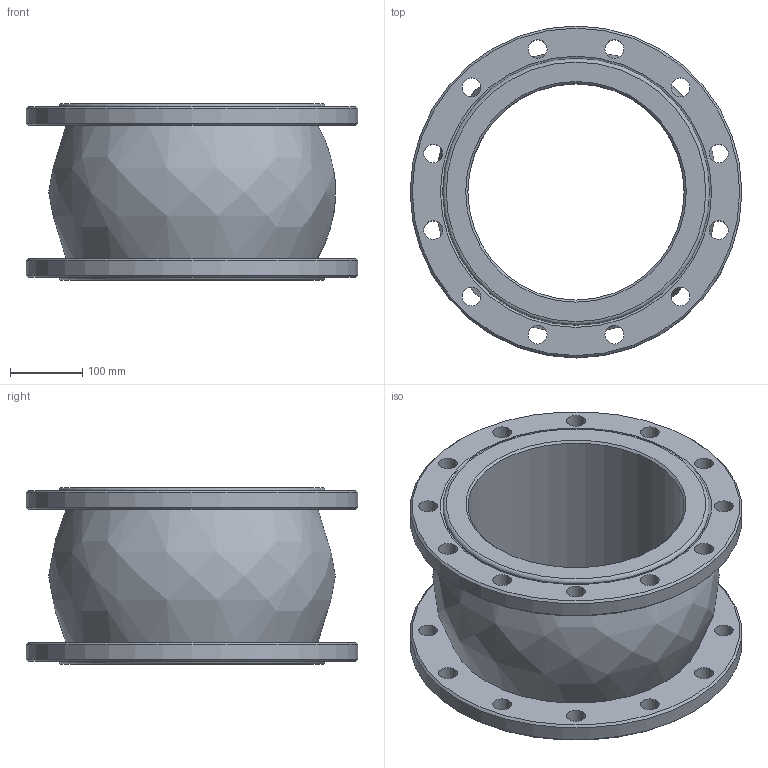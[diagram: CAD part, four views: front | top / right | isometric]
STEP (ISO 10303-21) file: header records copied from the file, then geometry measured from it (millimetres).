
FILE_DESCRIPTION(/* description */ ('D140-02402','CAx-IF Rec.Pracs.---Representation and Presentation of Product Manufacturing Information (PMI)---4.0---2014-10-13'),/* implementation_level */ '2;1');
FILE_NAME(/* name */ '',/* time_stamp */ '2026-03-10T22:44:08+03:00',/* author */ ('DN.RU'),/* organization */ ('DN.RU'),/* preprocessor_version */ 'ST-DEVELOPER v20',/* originating_system */ 'Autodesk Inventor 2025',/* authorisation */ '');
FILE_SCHEMA (('AP242_MANAGED_MODEL_BASED_3D_ENGINEERING_MIM_LF { 1 0 10303 442 1 1 4 }'));
Length unit declared in the file: millimetre
Products named in the file (1): CR-N25-F
Bounding box: 460 x 460 x 245 mm (x, y, z)
Volume: 13004723.3 mm3; surface area: 891212.1 mm2
Topology: 1 solids, 1 shells, 115 faces, 316 edges, 210 vertices
Faces by surface type: plane 43, bspline 34, cylinder 29, cone 7, torus 2
Full cylindrical faces by diameter (mm): 26 x24, 300 x1, 370 x2, 460 x2
Entity records: 5065 total; most frequent: CARTESIAN_POINT 1747, DIRECTION 650, ORIENTED_EDGE 632, EDGE_CURVE 316, AXIS2_PLACEMENT_3D 277, VERTEX_POINT 210, CIRCLE 182, EDGE_LOOP 172
